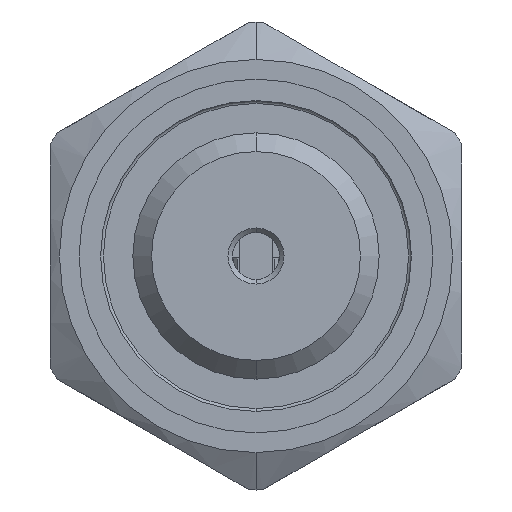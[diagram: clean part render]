
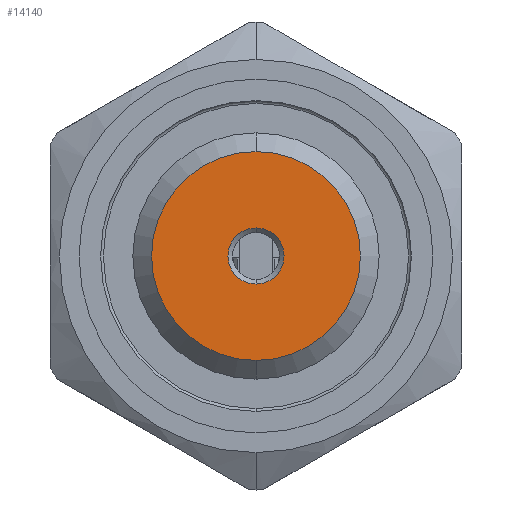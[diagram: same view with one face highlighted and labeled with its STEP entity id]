
A CAD part, front view. The second image highlights one B-rep face of the part: STEP entity #14140.
In plain terms, the highlighted planar face has unit normal (0, -1, 0).
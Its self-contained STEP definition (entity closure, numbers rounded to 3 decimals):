
#1409 = EDGE_CURVE ( 'NONE', #13504, #13840, #4980, .T. ) ;
#1638 = ORIENTED_EDGE ( 'NONE', *, *, #2410, .T. ) ;
#1703 = ORIENTED_EDGE ( 'NONE', *, *, #11683, .T. ) ;
#1879 = CIRCLE ( 'NONE', #8343, 5.579 ) ;
#2305 = CARTESIAN_POINT ( 'NONE',  ( 0., 0., 0. ) ) ;
#2410 = EDGE_CURVE ( 'NONE', #6580, #13162, #1879, .T. ) ;
#2646 = CARTESIAN_POINT ( 'NONE',  ( 0., 0., 0. ) ) ;
#2791 = DIRECTION ( 'NONE',  ( 0., -1., 0. ) ) ;
#3479 = DIRECTION ( 'NONE',  ( 0., 0., -1. ) ) ;
#3819 = DIRECTION ( 'NONE',  ( 0., -1., 0. ) ) ;
#3885 = CARTESIAN_POINT ( 'NONE',  ( 0., 0., 0. ) ) ;
#3995 = FACE_OUTER_BOUND ( 'NONE', #12566, .T. ) ;
#4282 = CARTESIAN_POINT ( 'NONE',  ( 0., 0., 1.5 ) ) ;
#4542 = AXIS2_PLACEMENT_3D ( 'NONE', #2305, #10466, #3479 ) ;
#4560 = CARTESIAN_POINT ( 'NONE',  ( 0., 0., 0. ) ) ;
#4895 = ORIENTED_EDGE ( 'NONE', *, *, #1409, .T. ) ;
#4930 = PLANE ( 'NONE',  #9391 ) ;
#4980 = CIRCLE ( 'NONE', #4542, 1.5 ) ;
#4997 = CIRCLE ( 'NONE', #8577, 1.5 ) ;
#5038 = DIRECTION ( 'NONE',  ( 0., 0., -1. ) ) ;
#5140 = CIRCLE ( 'NONE', #7094, 5.579 ) ;
#5716 = DIRECTION ( 'NONE',  ( 0., 0., -1. ) ) ;
#6580 = VERTEX_POINT ( 'NONE', #12715 ) ;
#7094 = AXIS2_PLACEMENT_3D ( 'NONE', #9788, #2791, #10959 ) ;
#7118 = EDGE_LOOP ( 'NONE', ( #4895, #1703 ) ) ;
#7325 = ORIENTED_EDGE ( 'NONE', *, *, #13154, .T. ) ;
#7432 = FACE_BOUND ( 'NONE', #7118, .T. ) ;
#8343 = AXIS2_PLACEMENT_3D ( 'NONE', #4560, #12714, #5716 ) ;
#8577 = AXIS2_PLACEMENT_3D ( 'NONE', #3885, #12035, #5038 ) ;
#8592 = CARTESIAN_POINT ( 'NONE',  ( 0., 0., 5.579 ) ) ;
#9391 = AXIS2_PLACEMENT_3D ( 'NONE', #2646, #3819, #11969 ) ;
#9788 = CARTESIAN_POINT ( 'NONE',  ( 0., 0., 0. ) ) ;
#10466 = DIRECTION ( 'NONE',  ( 0., 1., 0. ) ) ;
#10959 = DIRECTION ( 'NONE',  ( 0., 0., -1. ) ) ;
#11637 = CARTESIAN_POINT ( 'NONE',  ( 0., 0., -1.5 ) ) ;
#11683 = EDGE_CURVE ( 'NONE', #13840, #13504, #4997, .T. ) ;
#11969 = DIRECTION ( 'NONE',  ( 0., 0., -1. ) ) ;
#12035 = DIRECTION ( 'NONE',  ( 0., 1., 0. ) ) ;
#12566 = EDGE_LOOP ( 'NONE', ( #7325, #1638 ) ) ;
#12714 = DIRECTION ( 'NONE',  ( 0., -1., 0. ) ) ;
#12715 = CARTESIAN_POINT ( 'NONE',  ( 0., 0., -5.579 ) ) ;
#13154 = EDGE_CURVE ( 'NONE', #13162, #6580, #5140, .T. ) ;
#13162 = VERTEX_POINT ( 'NONE', #8592 ) ;
#13504 = VERTEX_POINT ( 'NONE', #11637 ) ;
#13840 = VERTEX_POINT ( 'NONE', #4282 ) ;
#14140 = ADVANCED_FACE ( 'NONE', ( #7432, #3995 ), #4930, .T. ) ;
